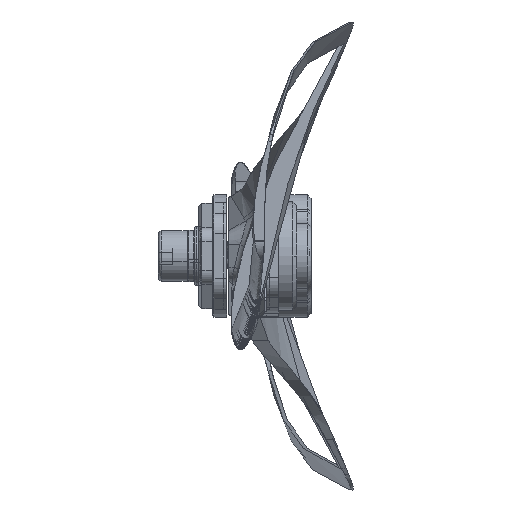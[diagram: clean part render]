
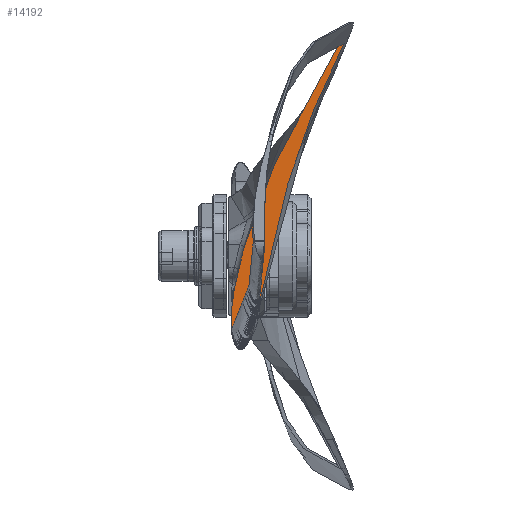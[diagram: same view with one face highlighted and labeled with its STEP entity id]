
A CAD part, left-side view. The second image highlights one B-rep face of the part: STEP entity #14192.
In plain terms, the highlighted planar face has unit normal (-1, 0, 0) as drawn and (0, 0, 1) by its records, which use the part's own axes.
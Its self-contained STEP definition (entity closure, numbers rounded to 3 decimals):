
#639 = VERTEX_POINT ( 'NONE', #27063 ) ;
#641 = ORIENTED_EDGE ( 'NONE', *, *, #20832, .T. ) ;
#721 = VECTOR ( 'NONE', #8261, 1000. ) ;
#855 = VERTEX_POINT ( 'NONE', #27241 ) ;
#1251 = EDGE_LOOP ( 'NONE', ( #7297, #641, #26409, #32119 ) ) ;
#1590 = DIRECTION ( 'NONE',  ( -1., 0., 0. ) ) ;
#2495 = CARTESIAN_POINT ( 'NONE',  ( -0.016, 4.175, 63.089 ) ) ;
#3026 = CARTESIAN_POINT ( 'NONE',  ( 3.84, 3.091, 63.089 ) ) ;
#3981 = DIRECTION ( 'NONE',  ( 0., 1., 0. ) ) ;
#4052 = CARTESIAN_POINT ( 'NONE',  ( -9.314, 2.383, 63.089 ) ) ;
#4080 = PLANE ( 'NONE',  #17114 ) ;
#5162 = CARTESIAN_POINT ( 'NONE',  ( -9.927, 5.583, 63.089 ) ) ;
#5503 = CARTESIAN_POINT ( 'NONE',  ( 4.69, 2.811, 63.089 ) ) ;
#5677 = CARTESIAN_POINT ( 'NONE',  ( -9.245, 5.603, 63.089 ) ) ;
#6700 = CARTESIAN_POINT ( 'NONE',  ( 8.416, -1.759, 63.089 ) ) ;
#6876 = CARTESIAN_POINT ( 'NONE',  ( -8.469, 2.191, 63.089 ) ) ;
#7055 = CARTESIAN_POINT ( 'NONE',  ( 21.543, -6.316, 63.089 ) ) ;
#7223 = CARTESIAN_POINT ( 'NONE',  ( -1.686, 0.724, 63.089 ) ) ;
#7297 = ORIENTED_EDGE ( 'NONE', *, *, #30026, .T. ) ;
#7637 = CARTESIAN_POINT ( 'NONE',  ( -9.7, 5.591, 63.089 ) ) ;
#7984 = CARTESIAN_POINT ( 'NONE',  ( 6.379, 2.216, 63.089 ) ) ;
#8261 = DIRECTION ( 'NONE',  ( 0., 1., 0. ) ) ;
#8338 = CARTESIAN_POINT ( 'NONE',  ( -3.907, 5.094, 63.089 ) ) ;
#9357 = CARTESIAN_POINT ( 'NONE',  ( -10.154, 2.597, 63.089 ) ) ;
#9532 = CARTESIAN_POINT ( 'NONE',  ( -5.928, 1.63, 63.089 ) ) ;
#9706 = CARTESIAN_POINT ( 'NONE',  ( 15.856, -4.154, 63.089 ) ) ;
#9880 = CARTESIAN_POINT ( 'NONE',  ( 16.676, -4.447, 63.089 ) ) ;
#10296 = CARTESIAN_POINT ( 'NONE',  ( 18.564, -3.221, 63.089 ) ) ;
#10637 = CARTESIAN_POINT ( 'NONE',  ( -6.541, 5.515, 63.089 ) ) ;
#10994 = CARTESIAN_POINT ( 'NONE',  ( 26.35, -7.528, 63.089 ) ) ;
#12217 = DIRECTION ( 'NONE',  ( 0., 0., -1. ) ) ;
#12362 = CARTESIAN_POINT ( 'NONE',  ( 3.38, -0.46, 63.089 ) ) ;
#12534 = CARTESIAN_POINT ( 'NONE',  ( 13.395, -3.284, 63.089 ) ) ;
#13119 = CARTESIAN_POINT ( 'NONE',  ( 13.79, -0.846, 63.089 ) ) ;
#13819 = CARTESIAN_POINT ( 'NONE',  ( 7.216, 1.904, 63.089 ) ) ;
#14192 = ADVANCED_FACE ( 'NONE', ( #21582 ), #4080, .F. ) ;
#14600 = LINE ( 'NONE', #22735, #27949 ) ;
#14667 = CARTESIAN_POINT ( 'NONE',  ( 11.748, -2.724, 63.089 ) ) ;
#14836 = CARTESIAN_POINT ( 'NONE',  ( 18.311, -5.04, 63.089 ) ) ;
#15772 = CARTESIAN_POINT ( 'NONE',  ( -7.885, 5.596, 63.089 ) ) ;
#16286 = CARTESIAN_POINT ( 'NONE',  ( -0.445, 4.293, 63.089 ) ) ;
#16389 = CARTESIAN_POINT ( 'NONE',  ( -10.154, -12.831, 63.089 ) ) ;
#17114 = AXIS2_PLACEMENT_3D ( 'NONE', #22479, #12217, #1590 ) ;
#17491 = CARTESIAN_POINT ( 'NONE',  ( 19.126, -5.343, 63.089 ) ) ;
#17665 = CARTESIAN_POINT ( 'NONE',  ( 23.925, -7.375, 63.089 ) ) ;
#17833 = CARTESIAN_POINT ( 'NONE',  ( 29.416, -9.997, 63.089 ) ) ;
#18424 = CARTESIAN_POINT ( 'NONE',  ( -1.303, 4.527, 63.089 ) ) ;
#18589 = CARTESIAN_POINT ( 'NONE',  ( -3.032, 4.939, 63.089 ) ) ;
#18760 = CARTESIAN_POINT ( 'NONE',  ( 2.132, 3.6, 63.089 ) ) ;
#18939 = EDGE_CURVE ( 'NONE', #639, #26074, #24719, .T. ) ;
#18943 = CARTESIAN_POINT ( 'NONE',  ( -9.018, 5.606, 63.089 ) ) ;
#19118 = CARTESIAN_POINT ( 'NONE',  ( -8.337, 5.606, 63.089 ) ) ;
#20142 = CARTESIAN_POINT ( 'NONE',  ( -9.737, 2.48, 63.089 ) ) ;
#20324 = CARTESIAN_POINT ( 'NONE',  ( 9.252, -1.99, 63.089 ) ) ;
#20492 = CARTESIAN_POINT ( 'NONE',  ( 1.694, -0.054, 63.089 ) ) ;
#20832 = EDGE_CURVE ( 'NONE', #33302, #855, #14600, .T. ) ;
#21081 = CARTESIAN_POINT ( 'NONE',  ( 9.709, 0.928, 63.089 ) ) ;
#21582 = FACE_OUTER_BOUND ( 'NONE', #1251, .T. ) ;
#22479 = CARTESIAN_POINT ( 'NONE',  ( -10.154, -12.831, 63.089 ) ) ;
#22576 = CARTESIAN_POINT ( 'NONE',  ( -10.154, 5.568, 63.089 ) ) ;
#22735 = CARTESIAN_POINT ( 'NONE',  ( 29.416, -12.831, 63.089 ) ) ;
#22979 = CARTESIAN_POINT ( 'NONE',  ( -4.23, 1.273, 63.089 ) ) ;
#23325 = CARTESIAN_POINT ( 'NONE',  ( -8.045, 2.098, 63.089 ) ) ;
#23916 = CARTESIAN_POINT ( 'NONE',  ( -5.661, 5.382, 63.089 ) ) ;
#24436 = CARTESIAN_POINT ( 'NONE',  ( -1.733, 4.639, 63.089 ) ) ;
#24719 = LINE ( 'NONE', #16389, #721 ) ;
#25468 = CARTESIAN_POINT ( 'NONE',  ( 26.284, -8.485, 63.089 ) ) ;
#25638 = CARTESIAN_POINT ( 'NONE',  ( 23.135, -7.013, 63.089 ) ) ;
#26074 = VERTEX_POINT ( 'NONE', #22576 ) ;
#26409 = ORIENTED_EDGE ( 'NONE', *, *, #28912, .T. ) ;
#27063 = CARTESIAN_POINT ( 'NONE',  ( -10.154, 2.597, 63.089 ) ) ;
#27241 = CARTESIAN_POINT ( 'NONE',  ( 29.416, -9.347, 63.089 ) ) ;
#27250 = CARTESIAN_POINT ( 'NONE',  ( 29.416, -9.997, 63.089 ) ) ;
#27265 = CARTESIAN_POINT ( 'NONE',  ( 29.416, -9.347, 63.089 ) ) ;
#27949 = VECTOR ( 'NONE', #3981, 1000. ) ;
#28478 = CARTESIAN_POINT ( 'NONE',  ( 6.741, -1.313, 63.089 ) ) ;
#28912 = EDGE_CURVE ( 'NONE', #855, #26074, #30469, .T. ) ;
#29760 = CARTESIAN_POINT ( 'NONE',  ( 12.173, -0.104, 63.089 ) ) ;
#29934 = CARTESIAN_POINT ( 'NONE',  ( 23.268, -5.74, 63.089 ) ) ;
#30026 = EDGE_CURVE ( 'NONE', #639, #33302, #30914, .T. ) ;
#30469 = B_SPLINE_CURVE_WITH_KNOTS ( 'NONE', 3,
 ( #27265, #10994, #29934, #10296, #32243, #13119, #29760, #21081, #32593, #13819, #7984, #5503, #3026, #18760, #31900, #2495, #16286, #18424, #24436, #18589, #8338, #23916, #10637, #15772, #19118, #18943, #5677, #7637, #5162, #34727 ),
 .UNSPECIFIED., .F., .F.,
 ( 4, 2, 2, 2, 2, 2, 2, 2, 2, 2, 2, 2, 2, 2, 4 ),
 ( 0., 0.011, 0.016, 0.021, 0.024, 0.027, 0.029, 0.032, 0.033, 0.035, 0.037, 0.04, 0.041, 0.042, 0.043 ),
 .UNSPECIFIED. ) ;
#30782 = CARTESIAN_POINT ( 'NONE',  ( 27.842, -9.261, 63.089 ) ) ;
#30914 = B_SPLINE_CURVE_WITH_KNOTS ( 'NONE', 3,
 ( #9357, #20142, #4052, #6876, #23325, #33787, #9532, #22979, #34141, #7223, #30953, #20492, #12362, #31304, #28478, #6700, #20324, #14667, #12534, #9706, #9880, #14836, #17491, #31131, #7055, #25638, #17665, #25468, #30782, #17833 ),
 .UNSPECIFIED., .F., .F.,
 ( 4, 2, 2, 2, 2, 2, 2, 2, 2, 2, 2, 2, 2, 2, 4 ),
 ( 0., 0.001, 0.003, 0.005, 0.008, 0.01, 0.016, 0.018, 0.021, 0.026, 0.029, 0.031, 0.034, 0.036, 0.042 ),
 .UNSPECIFIED. ) ;
#30953 = CARTESIAN_POINT ( 'NONE',  ( -0.84, 0.531, 63.089 ) ) ;
#31131 = CARTESIAN_POINT ( 'NONE',  ( 20.741, -5.982, 63.089 ) ) ;
#31304 = CARTESIAN_POINT ( 'NONE',  ( 5.901, -1.096, 63.089 ) ) ;
#31900 = CARTESIAN_POINT ( 'NONE',  ( 1.272, 3.825, 63.089 ) ) ;
#32119 = ORIENTED_EDGE ( 'NONE', *, *, #18939, .F. ) ;
#32243 = CARTESIAN_POINT ( 'NONE',  ( 16.984, -2.406, 63.089 ) ) ;
#32593 = CARTESIAN_POINT ( 'NONE',  ( 8.881, 1.26, 63.089 ) ) ;
#33302 = VERTEX_POINT ( 'NONE', #27250 ) ;
#33787 = CARTESIAN_POINT ( 'NONE',  ( -6.775, 1.814, 63.089 ) ) ;
#34141 = CARTESIAN_POINT ( 'NONE',  ( -3.38, 1.095, 63.089 ) ) ;
#34727 = CARTESIAN_POINT ( 'NONE',  ( -10.154, 5.568, 63.089 ) ) ;
